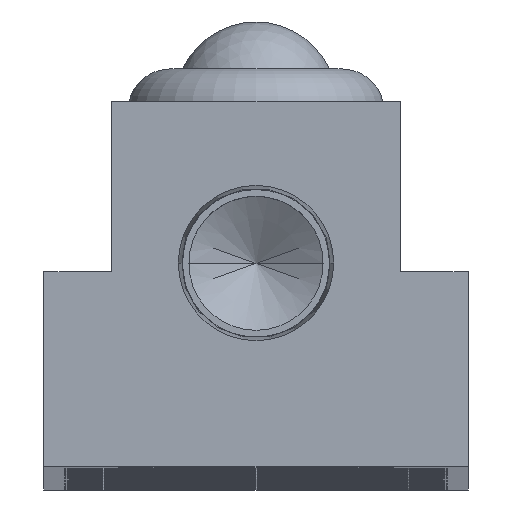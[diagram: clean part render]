
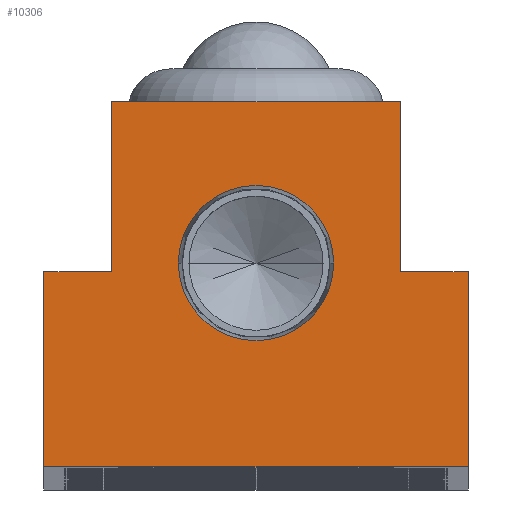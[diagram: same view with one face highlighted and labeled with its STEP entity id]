
A CAD part, top view. The second image highlights one B-rep face of the part: STEP entity #10306.
In plain terms, the highlighted planar face has unit normal (0, 0, 1).
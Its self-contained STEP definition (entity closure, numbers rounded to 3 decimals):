
#1072 = DIRECTION ( 'NONE',  ( 1., 0., 0. ) ) ;
#1502 = DIRECTION ( 'NONE',  ( 0., -1., 0. ) ) ;
#1673 = DIRECTION ( 'NONE',  ( 0., 0., 1. ) ) ;
#1714 = ORIENTED_EDGE ( 'NONE', *, *, #26166, .F. ) ;
#2375 = DIRECTION ( 'NONE',  ( 0., -1., 0. ) ) ;
#2629 = LINE ( 'NONE', #13752, #18238 ) ;
#2639 = EDGE_CURVE ( 'NONE', #18883, #16958, #2629, .T. ) ;
#2751 = LINE ( 'NONE', #25837, #23750 ) ;
#2835 = LINE ( 'NONE', #10488, #23835 ) ;
#2998 = CARTESIAN_POINT ( 'NONE',  ( 8.5, 21.5, 0. ) ) ;
#3583 = CARTESIAN_POINT ( 'NONE',  ( 0., 0., 0. ) ) ;
#3628 = ORIENTED_EDGE ( 'NONE', *, *, #23686, .T. ) ;
#3706 = LINE ( 'NONE', #8724, #18690 ) ;
#4138 = ORIENTED_EDGE ( 'NONE', *, *, #19196, .T. ) ;
#5043 = LINE ( 'NONE', #16874, #20686 ) ;
#5654 = EDGE_CURVE ( 'NONE', #10572, #18883, #3706, .T. ) ;
#5708 = DIRECTION ( 'NONE',  ( 1., 0., 0. ) ) ;
#6512 = CARTESIAN_POINT ( 'NONE',  ( 12.5, 0., 0. ) ) ;
#6757 = DIRECTION ( 'NONE',  ( -1., 0., 0. ) ) ;
#6954 = EDGE_LOOP ( 'NONE', ( #24121, #13925, #21332, #15769, #4138, #3628, #7508, #20456 ) ) ;
#7508 = ORIENTED_EDGE ( 'NONE', *, *, #20693, .T. ) ;
#7892 = LINE ( 'NONE', #23066, #17424 ) ;
#8506 = LINE ( 'NONE', #8573, #13292 ) ;
#8573 = CARTESIAN_POINT ( 'NONE',  ( 8.5, 21.5, 0. ) ) ;
#8724 = CARTESIAN_POINT ( 'NONE',  ( 12.5, 11.5, 0. ) ) ;
#8736 = VERTEX_POINT ( 'NONE', #24819 ) ;
#9240 = AXIS2_PLACEMENT_3D ( 'NONE', #13870, #1673, #15922 ) ;
#10306 = ADVANCED_FACE ( 'NONE', ( #24476, #19698 ), #23957, .T. ) ;
#10488 = CARTESIAN_POINT ( 'NONE',  ( -8.5, 21.5, 0. ) ) ;
#10572 = VERTEX_POINT ( 'NONE', #10792 ) ;
#10792 = CARTESIAN_POINT ( 'NONE',  ( 12.5, 11.5, 0. ) ) ;
#10900 = CIRCLE ( 'NONE', #12650, 4.574 ) ;
#11684 = DIRECTION ( 'NONE',  ( 0., 1., 0. ) ) ;
#12629 = CARTESIAN_POINT ( 'NONE',  ( -8.5, 11.5, 0. ) ) ;
#12650 = AXIS2_PLACEMENT_3D ( 'NONE', #25413, #13258, #1072 ) ;
#12759 = DIRECTION ( 'NONE',  ( -1., 0., 0. ) ) ;
#13109 = VERTEX_POINT ( 'NONE', #12629 ) ;
#13258 = DIRECTION ( 'NONE',  ( 0., 0., 1. ) ) ;
#13292 = VECTOR ( 'NONE', #22811, 1000. ) ;
#13752 = CARTESIAN_POINT ( 'NONE',  ( 8.5, 11.5, 0. ) ) ;
#13870 = CARTESIAN_POINT ( 'NONE',  ( 0., 12., 0. ) ) ;
#13925 = ORIENTED_EDGE ( 'NONE', *, *, #5654, .T. ) ;
#13972 = VECTOR ( 'NONE', #20795, 1000. ) ;
#14152 = ORIENTED_EDGE ( 'NONE', *, *, #14412, .F. ) ;
#14412 = EDGE_CURVE ( 'NONE', #18578, #8736, #10900, .T. ) ;
#14454 = VERTEX_POINT ( 'NONE', #19478 ) ;
#14561 = VERTEX_POINT ( 'NONE', #15842 ) ;
#15140 = EDGE_CURVE ( 'NONE', #14561, #22422, #5043, .T. ) ;
#15769 = ORIENTED_EDGE ( 'NONE', *, *, #16217, .T. ) ;
#15842 = CARTESIAN_POINT ( 'NONE',  ( -12.5, 0., 0. ) ) ;
#15922 = DIRECTION ( 'NONE',  ( 1., 0., 0. ) ) ;
#16217 = EDGE_CURVE ( 'NONE', #16958, #20647, #8506, .T. ) ;
#16874 = CARTESIAN_POINT ( 'NONE',  ( -12.5, 0., 0. ) ) ;
#16958 = VERTEX_POINT ( 'NONE', #2998 ) ;
#17294 = AXIS2_PLACEMENT_3D ( 'NONE', #3583, #17921, #5708 ) ;
#17424 = VECTOR ( 'NONE', #6757, 1000. ) ;
#17686 = CARTESIAN_POINT ( 'NONE',  ( -8.5, 21.5, 0. ) ) ;
#17921 = DIRECTION ( 'NONE',  ( 0., 0., 1. ) ) ;
#17988 = CARTESIAN_POINT ( 'NONE',  ( 12.5, 0., 0. ) ) ;
#18238 = VECTOR ( 'NONE', #11684, 1000. ) ;
#18578 = VERTEX_POINT ( 'NONE', #22079 ) ;
#18690 = VECTOR ( 'NONE', #12759, 1000. ) ;
#18883 = VERTEX_POINT ( 'NONE', #23557 ) ;
#19196 = EDGE_CURVE ( 'NONE', #20647, #13109, #2835, .T. ) ;
#19352 = LINE ( 'NONE', #6512, #13972 ) ;
#19478 = CARTESIAN_POINT ( 'NONE',  ( -12.5, 11.5, 0. ) ) ;
#19698 = FACE_OUTER_BOUND ( 'NONE', #6954, .T. ) ;
#19892 = CIRCLE ( 'NONE', #9240, 4.574 ) ;
#20456 = ORIENTED_EDGE ( 'NONE', *, *, #15140, .T. ) ;
#20647 = VERTEX_POINT ( 'NONE', #17686 ) ;
#20686 = VECTOR ( 'NONE', #24937, 1000. ) ;
#20693 = EDGE_CURVE ( 'NONE', #14454, #14561, #2751, .T. ) ;
#20795 = DIRECTION ( 'NONE',  ( 0., 1., 0. ) ) ;
#21332 = ORIENTED_EDGE ( 'NONE', *, *, #2639, .T. ) ;
#22079 = CARTESIAN_POINT ( 'NONE',  ( 4.574, 12., 0. ) ) ;
#22422 = VERTEX_POINT ( 'NONE', #17988 ) ;
#22811 = DIRECTION ( 'NONE',  ( -1., 0., 0. ) ) ;
#23066 = CARTESIAN_POINT ( 'NONE',  ( -8.5, 11.5, 0. ) ) ;
#23557 = CARTESIAN_POINT ( 'NONE',  ( 8.5, 11.5, 0. ) ) ;
#23596 = EDGE_CURVE ( 'NONE', #22422, #10572, #19352, .T. ) ;
#23686 = EDGE_CURVE ( 'NONE', #13109, #14454, #7892, .T. ) ;
#23750 = VECTOR ( 'NONE', #1502, 1000. ) ;
#23835 = VECTOR ( 'NONE', #2375, 1000. ) ;
#23957 = PLANE ( 'NONE',  #17294 ) ;
#24121 = ORIENTED_EDGE ( 'NONE', *, *, #23596, .T. ) ;
#24476 = FACE_BOUND ( 'NONE', #24485, .T. ) ;
#24485 = EDGE_LOOP ( 'NONE', ( #14152, #1714 ) ) ;
#24819 = CARTESIAN_POINT ( 'NONE',  ( -4.574, 12., 0. ) ) ;
#24937 = DIRECTION ( 'NONE',  ( 1., 0., 0. ) ) ;
#25413 = CARTESIAN_POINT ( 'NONE',  ( 0., 12., 0. ) ) ;
#25837 = CARTESIAN_POINT ( 'NONE',  ( -12.5, 11.5, 0. ) ) ;
#26166 = EDGE_CURVE ( 'NONE', #8736, #18578, #19892, .T. ) ;
